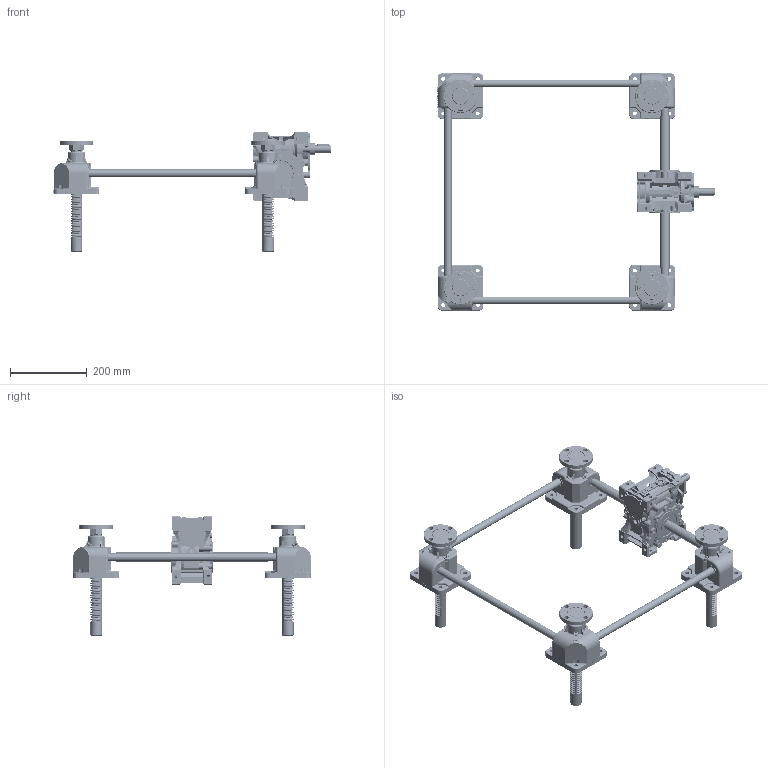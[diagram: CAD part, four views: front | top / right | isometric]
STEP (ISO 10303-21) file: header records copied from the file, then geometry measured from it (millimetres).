
FILE_DESCRIPTION(('STEP AP203'),'1');
FILE_NAME('SPH900F-500x500-250-150ST-063.stp','2016-08-05T06:39:16',(' '),(' '),'Spatial InterOp 3D',' ',' ');
FILE_SCHEMA(('CONFIG_CONTROL_DESIGN'));
Length unit declared in the file: millimetre
Products named in the file (106): SPH900F-500x500-250-150ST-063; Rack Gear(SP-900F); Flange.1-Part; Flange.1; Joint.1; Nut.1; Flange.2-Part; Flange.2; Joint.2; Nut.2; Flange.3-Part; Flange.3; Joint.3; Nut.3; Flange.4-Part; Flange.4; Joint.4; Nut.4; Body.1-Part; Bolt; Nipple; Gear Box.1(Upper); Body_stand by; Gear Box.1(Lower); RJ05-4SCJ-610X600-100ST_CAP; LABEL-B.1; ___; 파트18; __ ; Body.2-Part; Gear Box.2(Upper); Gear Box.2(Lower); Body.3-Part; Gear Box.3(Upper); Gear Box.3(Lower); Body.4-Part; Gear Box.4(Upper); Gear Box.4(Lower); Shaft.1; Shaft(Reducer-Part)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
Assembly tree (109 placements, depth 6):
  SPH900F-500x500-250-150ST-063
    Rack Gear(SP-900F)  x4
    Flange.1-Part
      Flange.1
      Joint.1
      Nut.1
    Flange.2-Part
      Flange.2
      Joint.2
      Nut.2
    Flange.3-Part
      Flange.3
      Joint.3
      Nut.3
    Flange.4-Part
      Flange.4
      Joint.4
      Nut.4
    Body.1-Part
      Bolt
      Bolt
      Bolt
      Nipple
      Gear Box.1(Upper)
        Body_stand by
        Body_stand by
        Body_stand by
        Body_stand by
      Gear Box.1(Lower)
        Body_stand by
        Body_stand by
        Body_stand by
        Body_stand by
      __ 
        ___
          RJ05-4SCJ-610X600-100ST_CAP
            LABEL-B.1
          파트18
    Body.2-Part
      Bolt
      Bolt
      Bolt
      Nipple
      Gear Box.2(Upper)
        Body_stand by
        Body_stand by
        Body_stand by
        Body_stand by
      Gear Box.2(Lower)
        Body_stand by
        Body_stand by
        Body_stand by
        Body_stand by
      __ 
        ___
          RJ05-4SCJ-610X600-100ST_CAP
            LABEL-B.1
          파트18
    Body.3-Part
      Bolt
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Bounding box: 723.22 x 620.44 x 312 mm (x, y, z)
Volume: 3539009.5 mm3; surface area: 1162895.4 mm2
Topology: 72 solids, 2784 shells, 12079 faces, 40728 edges, 31442 vertices
Faces by surface type: plane 8992, cylinder 2394, torus 204, bspline 186, cone 139, sphere 100, extrusion 36, revolution 28
Full cylindrical faces by diameter (mm): 3.113 x4, 4.917 x1, 6 x16, 6.4 x1, 6.6 x4, 6.647 x16, 7.26 x12, 7.8 x1, 8 x12, 8.5 x14, 12 x16, 13 x8, 14 x15, 19 x1, 20 x5, 24 x1, 25 x9, 27 x5, 30 x6, 37 x5, 38 x4, 44 x5, 45 x5, 62 x3, 68 x1, 80 x2, 88 x4
Entity records: 453673 total; most frequent: CARTESIAN_POINT 127223, DIRECTION 63165, ORIENTED_EDGE 61266, EDGE_CURVE 37473, VERTEX_POINT 29657, VECTOR 28813, LINE 28777, AXIS2_PLACEMENT_3D 17162
